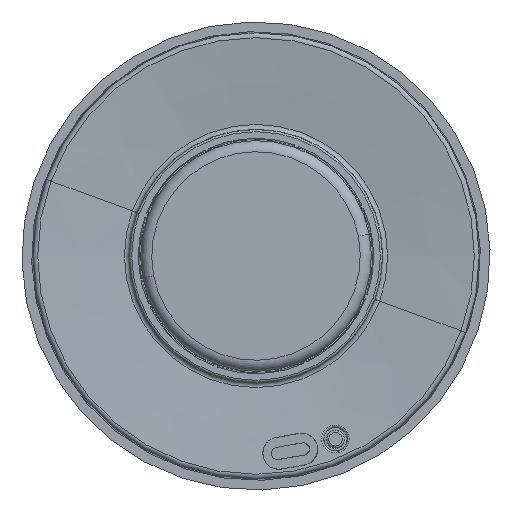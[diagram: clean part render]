
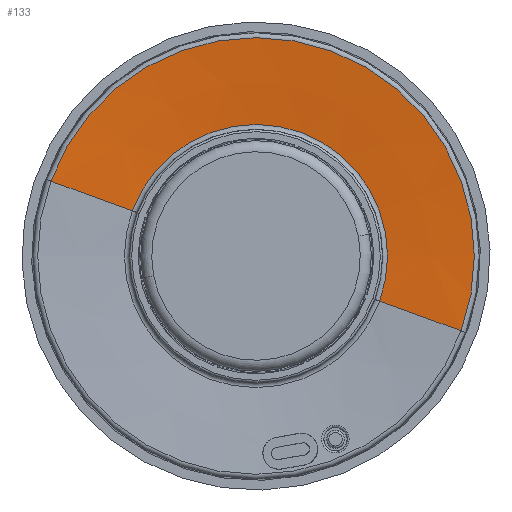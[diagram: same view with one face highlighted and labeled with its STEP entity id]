
A CAD part, front view. The second image highlights one B-rep face of the part: STEP entity #133.
In plain terms, the highlighted conical face has half-angle 84 degrees and reference radius 28.555 mm.
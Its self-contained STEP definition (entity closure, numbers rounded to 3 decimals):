
#133 = ADVANCED_FACE ( 'NONE', ( #2713 ), #3643, .F. ) ;
#162 = CARTESIAN_POINT ( 'NONE',  ( 0., -3.68, 0. ) ) ;
#194 = CARTESIAN_POINT ( 'NONE',  ( 0., -5.736, 0. ) ) ;
#227 = DIRECTION ( 'NONE',  ( 0., 1., 0. ) ) ;
#298 = DIRECTION ( 'NONE',  ( 0., -1., 0. ) ) ;
#358 = VERTEX_POINT ( 'NONE', #5851 ) ;
#396 = LINE ( 'NONE', #2396, #5916 ) ;
#710 = DIRECTION ( 'NONE',  ( -0.934, -0.105, 0.341 ) ) ;
#1121 = DIRECTION ( 'NONE',  ( 0., -1., 0. ) ) ;
#1183 = DIRECTION ( 'NONE',  ( 0.939, 0., -0.343 ) ) ;
#1436 = AXIS2_PLACEMENT_3D ( 'NONE', #194, #1121, #2232 ) ;
#1750 = VERTEX_POINT ( 'NONE', #6030 ) ;
#1832 = ORIENTED_EDGE ( 'NONE', *, *, #2230, .T. ) ;
#2230 = EDGE_CURVE ( 'NONE', #358, #4726, #396, .T. ) ;
#2232 = DIRECTION ( 'NONE',  ( 0.939, 0., -0.343 ) ) ;
#2254 = CIRCLE ( 'NONE', #1436, 49.196 ) ;
#2396 = CARTESIAN_POINT ( 'NONE',  ( 26.827, -3.566, -9.785 ) ) ;
#2468 = EDGE_CURVE ( 'NONE', #1750, #3526, #5146, .T. ) ;
#2619 = CARTESIAN_POINT ( 'NONE',  ( -26.827, -3.566, 9.785 ) ) ;
#2685 = EDGE_LOOP ( 'NONE', ( #4318, #3034, #1832, #4970 ) ) ;
#2713 = FACE_OUTER_BOUND ( 'NONE', #2685, .T. ) ;
#2771 = EDGE_CURVE ( 'NONE', #1750, #358, #5008, .T. ) ;
#2829 = EDGE_CURVE ( 'NONE', #4726, #3526, #2254, .T. ) ;
#3034 = ORIENTED_EDGE ( 'NONE', *, *, #2771, .T. ) ;
#3526 = VERTEX_POINT ( 'NONE', #4129 ) ;
#3571 = AXIS2_PLACEMENT_3D ( 'NONE', #162, #227, #1183 ) ;
#3643 = CONICAL_SURFACE ( 'NONE', #5797, 28.555, 1.466 ) ;
#3897 = CARTESIAN_POINT ( 'NONE',  ( 46.217, -5.736, -16.857 ) ) ;
#4129 = CARTESIAN_POINT ( 'NONE',  ( -46.217, -5.736, 16.857 ) ) ;
#4196 = DIRECTION ( 'NONE',  ( 0.939, 0., -0.343 ) ) ;
#4318 = ORIENTED_EDGE ( 'NONE', *, *, #2468, .F. ) ;
#4677 = CARTESIAN_POINT ( 'NONE',  ( 0., -3.566, 0. ) ) ;
#4726 = VERTEX_POINT ( 'NONE', #3897 ) ;
#4970 = ORIENTED_EDGE ( 'NONE', *, *, #2829, .T. ) ;
#5007 = VECTOR ( 'NONE', #710, 1000. ) ;
#5008 = CIRCLE ( 'NONE', #3571, 29.641 ) ;
#5146 = LINE ( 'NONE', #2619, #5007 ) ;
#5797 = AXIS2_PLACEMENT_3D ( 'NONE', #4677, #298, #4196 ) ;
#5851 = CARTESIAN_POINT ( 'NONE',  ( 27.846, -3.68, -10.157 ) ) ;
#5916 = VECTOR ( 'NONE', #6298, 1000. ) ;
#6030 = CARTESIAN_POINT ( 'NONE',  ( -27.846, -3.68, 10.157 ) ) ;
#6298 = DIRECTION ( 'NONE',  ( 0.934, -0.105, -0.341 ) ) ;
